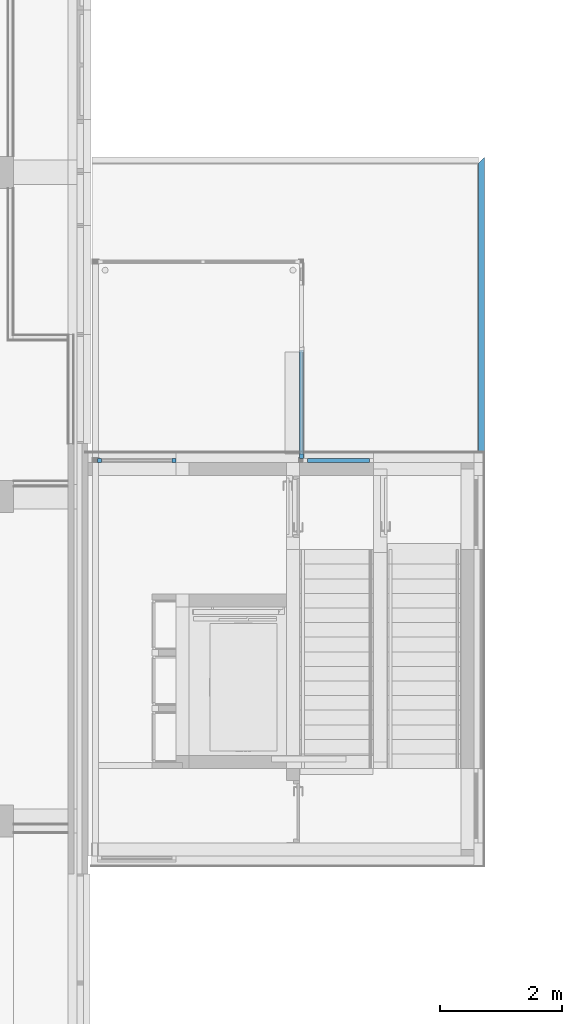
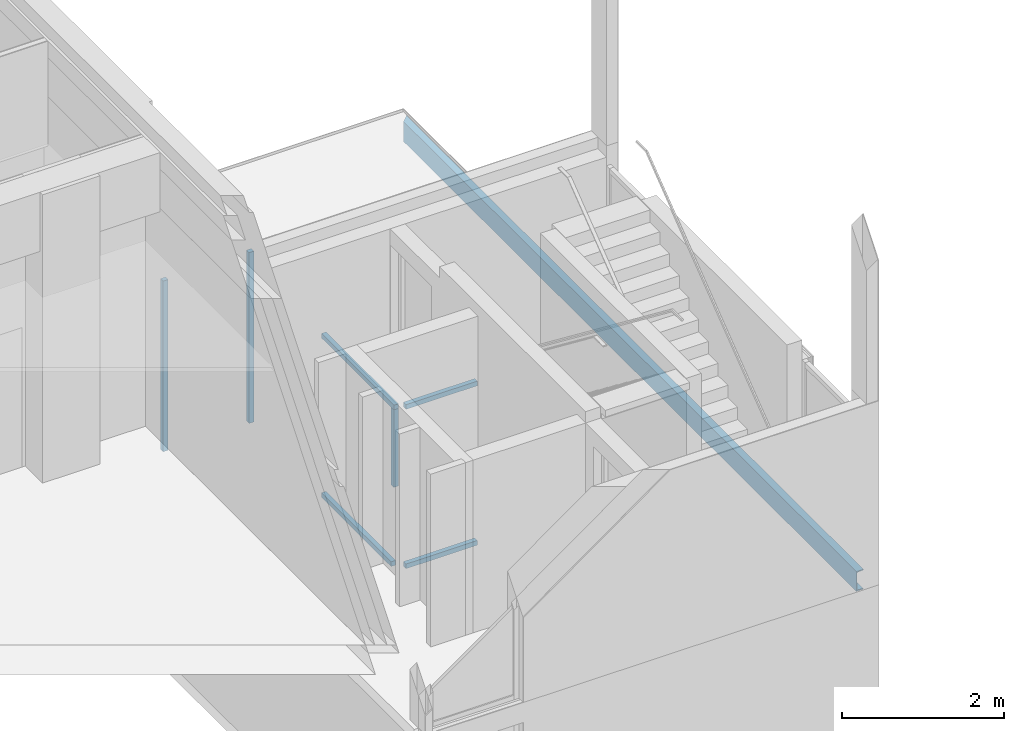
# One storey, part 26 of 117: 7 members, 1 beam, 3 elements without a shape of their own.
"""IFC2X3 building model written with IfcOpenShell, lengths in millimetres."""

from ifc_helpers import new_model, entity, si_unit, converted_unit, derived_unit, money_unit, direction, frame, origin_with_axes, place, context, subcontext, project, spatial, faceted_brep, material, type_object, element, aggregate, save


model = new_model("IFC2X3")

# Units and contexts
model_context = context("Model", 3, precision=0.01, world=origin_with_axes(), true_north=direction((0.0, 1.0)))
body_context = subcontext(model_context, "Body", "Model", "MODEL_VIEW")
ifc_project = project(units=[si_unit("LENGTHUNIT", "METRE", prefix="MILLI"), si_unit("AREAUNIT", "SQUARE_METRE"), si_unit("VOLUMEUNIT", "CUBIC_METRE"), converted_unit("PLANEANGLEUNIT", "DEGREE", entity("IfcPlaneAngleMeasure", 0.0174532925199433), si_unit("PLANEANGLEUNIT", "RADIAN"), dimensions=[0, 0, 0, 0, 0, 0, 0]), money_unit("EUR"), converted_unit("TIMEUNIT", "Year", entity("IfcTimeMeasure", 31557600.0), si_unit("TIMEUNIT", "SECOND"), dimensions=[0, 0, 1, 0, 0, 0, 0]), si_unit("MASSUNIT", "GRAM", prefix="KILO"), si_unit("THERMODYNAMICTEMPERATUREUNIT", "DEGREE_CELSIUS"), si_unit("LUMINOUSINTENSITYUNIT", "LUMEN"), si_unit("ENERGYUNIT", "JOULE", prefix="MEGA"), derived_unit("THERMALCONDUCTANCEUNIT", [(si_unit("POWERUNIT", "WATT"), 1), (si_unit("LENGTHUNIT", "METRE"), -1), (si_unit("THERMODYNAMICTEMPERATUREUNIT", "KELVIN"), -1)]), derived_unit("SPECIFICHEATCAPACITYUNIT", [(si_unit("ENERGYUNIT", "JOULE"), 1), (si_unit("MASSUNIT", "GRAM", prefix="KILO"), -1), (si_unit("THERMODYNAMICTEMPERATUREUNIT", "KELVIN"), -1)]), derived_unit("MASSDENSITYUNIT", [(si_unit("MASSUNIT", "GRAM", prefix="KILO"), 1), (si_unit("VOLUMEUNIT", "CUBIC_METRE"), -1)])], contexts=[model_context])

# Site, building, storey
site_placement = place(None, origin_with_axes())
site = spatial("IfcSite", under=ifc_project, at=site_placement, Name="Site", CompositionType="ELEMENT")
building_placement = place(site_placement, origin_with_axes())
building = spatial("IfcBuilding", under=site, at=building_placement, Name="Naam gebouw", CompositionType="ELEMENT")
storey_placement = place(building_placement, frame((0.0, 0.0, 4150.0), z_axis=(0.0, 0.0, 1.0), x_axis=(1.0, 0.0, 0.0)))
storey = spatial("IfcBuildingStorey", under=building, at=storey_placement, Name="1e verdieping N", CompositionType="ELEMENT", Elevation=4150.0)

# Beam
ifc_material_1 = material(Name="staal")
beam_type = type_object("IfcBeamType", Name="NLRS_28_SF_staal - balk - UNP:UNP300", PredefinedType="BEAM")
beam_placement = place(storey_placement, frame((36705.66666669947, 44195.91242627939, -1150.000000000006), z_axis=(0.0, 0.0, 1.0), x_axis=(-1.0, 0.0, 0.0)))
element("IfcBeam", 1, at=beam_placement, inside=storey, type_object=beam_type, material=ifc_material_1, Name="NLRS_28_SF_staal - balk - UNP:UNP300", ObjectType="BEAM", context=body_context, shape_type="Brep", body=[
    faceted_brep([(54.66666666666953, 11270.00000001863, -149.9999999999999), (54.66666666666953, 11270.00000001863, 149.9999999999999), (54.66666666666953, 99.99999998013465, 149.9999999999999), (54.66666666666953, 99.99999998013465, -149.9999999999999), (42.52307312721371, 11270.00000001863, -124.8), (44.66666666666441, 11270.00000001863, -116.8), (44.66666666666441, 11270.00000001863, 116.8), (42.52307312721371, 11270.00000001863, 124.7999999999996), (36.66666666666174, 11270.00000001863, 130.6564064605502), (28.66666666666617, 11270.00000001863, 132.7999999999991), (-37.33333333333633, 11270.00000001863, 136.1000000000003), (-42.99018758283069, 11270.00000001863, 138.4431457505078), (-45.33333333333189, 11270.00000001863, 144.0999999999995), (-45.33333333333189, 11270.00000001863, 149.9999999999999), (-45.33333333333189, 11270.00000001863, -149.9999999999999), (-45.33333333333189, 11270.00000001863, -144.0999999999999), (-42.99018758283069, 11270.00000001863, -138.4431457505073), (-37.33333333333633, 11270.00000001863, -136.0999999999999), (28.66666666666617, 11270.00000001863, -132.8), (36.66666666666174, 11270.00000001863, -130.6564064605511), (-45.33333333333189, 0.0, 149.9999999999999), (-45.33333333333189, 0.0, 144.0999999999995), (-42.99018758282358, 2.343145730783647, 138.4431457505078), (-37.33333333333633, 7.999999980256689, 136.1000000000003), (28.66666666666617, 73.99999998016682, 132.7999999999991), (36.66666666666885, 81.99999998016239, 130.6564064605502), (42.52307312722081, 87.85640644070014, 124.7999999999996), (44.66666666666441, 89.99999998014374, 116.8), (44.66666666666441, 89.99999998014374, -116.8), (42.52307312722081, 87.85640644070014, -124.8), (36.66666666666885, 81.99999998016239, -130.6564064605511), (28.66666666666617, 73.99999998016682, -132.8), (-37.33333333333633, 7.999999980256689, -136.0999999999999), (-42.99018758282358, 2.343145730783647, -138.4431457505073), (-45.33333331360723, 0.0, -144.0999999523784), (-45.33333333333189, 0.0, -149.9999999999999)], [[[0, 1, 2, 3]], [[4, 5, 6, 7, 8, 9, 10, 11, 12, 13, 1, 0, 14, 15, 16, 17, 18, 19]], [[2, 1, 13, 20]], [[3, 2, 20, 21, 22, 23, 24, 25, 26, 27, 28, 29, 30, 31, 32, 33, 34, 35]], [[0, 3, 35, 14]], [[5, 4, 29, 28]], [[6, 5, 28, 27]], [[7, 6, 27, 26]], [[7, 26, 25, 8]], [[9, 8, 25, 24]], [[10, 9, 24, 23]], [[11, 10, 23, 22]], [[11, 22, 21, 12]], [[13, 12, 21, 20]], [[15, 14, 35, 34]], [[33, 16, 15, 34]], [[17, 16, 33, 32]], [[18, 17, 32, 31]], [[19, 18, 31, 30]], [[29, 4, 19, 30]]]),
])

# Curtain wall, members
curtain_wall_type = type_object("IfcCurtainWallType", Name="Curtain Wall:21_CW_alu kozijn 070x065", PredefinedType="NOTDEFINED")
curtain_wall_1_placement = place(storey_placement, frame((0.0, 0.0, -4150.0), z_axis=(0.0, 0.0, 1.0), x_axis=(1.0, 0.0, 0.0)))
curtain_wall_1 = element("IfcCurtainWall", 2, at=curtain_wall_1_placement, inside=storey, type_object=curtain_wall_type, Name="Curtain Wall:21_CW_alu kozijn 070x065", ObjectType="Curtain Wall:21_CW_alu kozijn 070x065")
ifc_material_2 = material(Name="RAL 7024 - Grafietgrijs")
member_type_1 = type_object("IfcMemberType", Name="Rectangular Mullion:31_alu_070x065 RAL 7024", PredefinedType="MULLION")
member_1_placement = place(curtain_wall_1_placement, frame((31685.00000002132, 39212.4124263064, 5920.000000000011), z_axis=(0.0, 0.0, 1.0), x_axis=(1.0, 0.0, 0.0)))
member_1 = element("IfcMember", 3, at=member_1_placement, type_object=member_type_1, material=ifc_material_2, Name="Rectangular Mullion:31_alu_070x065 RAL 7024", ObjectType="MULLION", context=body_context, shape_type="Brep", body=[
    faceted_brep([(0.0, 32.5, -2570.0), (-70.0, 32.50000000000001, -2570.0), (-70.0, 32.50000000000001, -6.354916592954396e-10), (0.0, 32.5, -6.354916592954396e-10), (0.0, -32.50000000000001, -2570.0), (-70.0, -32.5, -2570.0), (-70.0, -32.5, -6.354916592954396e-10), (0.0, -32.50000000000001, -6.354916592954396e-10)], [[[0, 1, 2, 3]], [[0, 4, 5, 1]], [[1, 5, 6, 2]], [[3, 2, 6, 7]], [[4, 0, 3, 7]], [[5, 4, 7, 6]]]),
])
member_type_2 = type_object("IfcMemberType", Name="Rectangular Mullion:31_alu_070x065 RAL 7024", PredefinedType="MULLION")
member_2_placement = place(curtain_wall_1_placement, frame((30391.00000005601, 39212.4124263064, 3349.999999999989), z_axis=(0.0, 0.0, 1.0), x_axis=(-1.0, 0.0, 0.0)))
member_2 = element("IfcMember", 4, at=member_2_placement, type_object=member_type_2, material=ifc_material_2, Name="Rectangular Mullion:31_alu_070x065 RAL 7024", ObjectType="MULLION", context=body_context, shape_type="Brep", body=[
    faceted_brep([(0.0, -32.5, 2570.0), (-70.0, -32.50000000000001, 2570.0), (-70.0, -32.50000000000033, 6.354916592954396e-10), (0.0, -32.50000000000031, 6.354916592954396e-10), (0.0, 32.50000000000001, 2570.0), (-70.0, 32.5, 2570.0), (-70.0, 32.49999999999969, 6.354916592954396e-10), (0.0, 32.4999999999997, 6.354916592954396e-10)], [[[0, 1, 2, 3]], [[0, 4, 5, 1]], [[1, 5, 6, 2]], [[3, 2, 6, 7]], [[4, 0, 3, 7]], [[5, 4, 7, 6]]]),
])
aggregate(curtain_wall_1, [member_2, member_1])

curtain_wall_2_placement = place(storey_placement, frame((0.0, 0.0, -4150.0), z_axis=(0.0, 0.0, 1.0), x_axis=(1.0, 0.0, 0.0)))
curtain_wall_2 = element("IfcCurtainWall", 5, at=curtain_wall_2_placement, inside=storey, type_object=curtain_wall_type, Name="Curtain Wall:21_CW_alu kozijn 070x065", ObjectType="Curtain Wall:21_CW_alu kozijn 070x065")
member_type_3 = type_object("IfcMemberType", Name="Rectangular Mullion:31_alu_070x065 RAL 7024", PredefinedType="MULLION")
member_3_placement = place(curtain_wall_2_placement, frame((33745.50000004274, 39244.91242633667, 2779.999999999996), z_axis=(0.0, 0.0, 1.0), x_axis=(0.0, -1.0, 0.0)))
member_3 = element("IfcMember", 6, at=member_3_placement, type_object=member_type_3, material=ifc_material_2, Name="Rectangular Mullion:31_alu_070x065 RAL 7024", ObjectType="MULLION", context=body_context, shape_type="Brep", body=[
    faceted_brep([(0.0, 32.5, -1167.2), (-70.0, 32.50000000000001, -1167.2), (-70.0, 32.50000000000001, 0.0), (0.0, 32.5, 0.0), (0.0, -32.50000000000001, -1167.2), (-70.0, -32.5, -1167.2), (-70.0, -32.5, 0.0), (0.0, -32.50000000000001, 0.0)], [[[0, 1, 2, 3]], [[0, 4, 5, 1]], [[1, 5, 6, 2]], [[3, 2, 6, 7]], [[4, 0, 3, 7]], [[5, 4, 7, 6]]]),
])
member_type_4 = type_object("IfcMemberType", Name="Rectangular Mullion:31_alu_070x065 RAL 7024", PredefinedType="MULLION")
member_4_placement = place(curtain_wall_2_placement, frame((33745.50000004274, 39314.91242628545, 379.9999999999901), z_axis=(0.0, 0.0, 1.0), x_axis=(1.0, 0.0, 0.0)))
member_4 = element("IfcMember", 7, at=member_4_placement, type_object=member_type_4, material=ifc_material_2, Name="Rectangular Mullion:31_alu_070x065 RAL 7024", ObjectType="MULLION", context=body_context, shape_type="Brep", body=[
    faceted_brep([(32.49999999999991, 1714.700000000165, 0.0), (32.49999999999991, 1714.700000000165, 70.0), (32.50000000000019, 0.0, 70.0), (32.50000000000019, 0.0, 0.0), (-32.50000000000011, 1714.700000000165, 0.0), (-32.50000000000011, 1714.700000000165, 70.0), (-32.49999999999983, 0.0, 70.0), (-32.49999999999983, 0.0, 0.0)], [[[0, 1, 2, 3]], [[0, 4, 5, 1]], [[1, 5, 6, 2]], [[3, 2, 6, 7]], [[4, 0, 3, 7]], [[5, 4, 7, 6]]]),
])
member_type_5 = type_object("IfcMemberType", Name="Rectangular Mullion:31_alu_070x065 RAL 7024", PredefinedType="MULLION")
member_5_placement = place(curtain_wall_2_placement, frame((33745.50000004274, 41029.61242629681, 2849.999999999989), z_axis=(0.0, 0.0, 1.0), x_axis=(1.0, 0.0, 0.0)))
member_5 = element("IfcMember", 8, at=member_5_placement, type_object=member_type_5, material=ifc_material_2, Name="Rectangular Mullion:31_alu_070x065 RAL 7024", ObjectType="MULLION", context=body_context, shape_type="Brep", body=[
    faceted_brep([(32.50000000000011, -1784.700000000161, 0.0), (32.50000000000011, -1784.700000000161, -70.0), (32.49999999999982, 0.0, -70.0), (32.49999999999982, 0.0, 0.0), (-32.49999999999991, -1784.700000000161, 0.0), (-32.49999999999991, -1784.700000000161, -70.0), (-32.5000000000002, 0.0, -70.0), (-32.5000000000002, 0.0, 0.0)], [[[0, 1, 2, 3]], [[0, 4, 5, 1]], [[1, 5, 6, 2]], [[3, 2, 6, 7]], [[4, 0, 3, 7]], [[5, 4, 7, 6]]]),
])
aggregate(curtain_wall_2, [member_3, member_4, member_5])

curtain_wall_3_placement = place(storey_placement, frame((0.0, 0.0, -4150.0), z_axis=(0.0, 0.0, 1.0), x_axis=(1.0, 0.0, 0.0)))
curtain_wall_3 = element("IfcCurtainWall", 9, at=curtain_wall_3_placement, inside=storey, type_object=curtain_wall_type, Name="Curtain Wall:21_CW_alu kozijn 070x065", ObjectType="Curtain Wall:21_CW_alu kozijn 070x065")
member_type_6 = type_object("IfcMemberType", Name="Rectangular Mullion:31_alu_070x065 RAL 7024", PredefinedType="MULLION")
member_6_placement = place(curtain_wall_3_placement, frame((33848.00000005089, 39212.4124263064, 379.9999999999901), z_axis=(0.0, 0.0, 1.0), x_axis=(0.0, -1.0, 0.0)))
member_6 = element("IfcMember", 10, at=member_6_placement, type_object=member_type_6, material=ifc_material_2, Name="Rectangular Mullion:31_alu_070x065 RAL 7024", ObjectType="MULLION", context=body_context, shape_type="Brep", body=[
    faceted_brep([(32.49999999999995, 1015.0, 0.0), (32.49999999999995, 1015.0, 70.0), (32.50000000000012, 0.0, 70.0), (32.50000000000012, 0.0, 0.0), (-32.50000000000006, 1015.0, 0.0), (-32.50000000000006, 1015.0, 70.0), (-32.4999999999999, 0.0, 70.0), (-32.4999999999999, 0.0, 0.0)], [[[0, 1, 2, 3]], [[0, 4, 5, 1]], [[1, 5, 6, 2]], [[3, 2, 6, 7]], [[4, 0, 3, 7]], [[5, 4, 7, 6]]]),
])
member_type_7 = type_object("IfcMemberType", Name="Rectangular Mullion:31_alu_070x065 RAL 7024", PredefinedType="MULLION")
member_7_placement = place(curtain_wall_3_placement, frame((34863.00000006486, 39212.4124263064, 2849.999999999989), z_axis=(0.0, 0.0, 1.0), x_axis=(0.0, -1.0, 0.0)))
member_7 = element("IfcMember", 11, at=member_7_placement, type_object=member_type_7, material=ifc_material_2, Name="Rectangular Mullion:31_alu_070x065 RAL 7024", ObjectType="MULLION", context=body_context, shape_type="Brep", body=[
    faceted_brep([(32.50000000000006, -1015.0, 0.0), (32.50000000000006, -1015.0, -70.0), (32.4999999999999, 0.0, -70.0), (32.4999999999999, 0.0, 0.0), (-32.49999999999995, -1015.0, 0.0), (-32.49999999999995, -1015.0, -70.0), (-32.50000000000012, 0.0, -70.0), (-32.50000000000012, 0.0, 0.0)], [[[0, 1, 2, 3]], [[0, 4, 5, 1]], [[1, 5, 6, 2]], [[3, 2, 6, 7]], [[4, 0, 3, 7]], [[5, 4, 7, 6]]]),
])
aggregate(curtain_wall_3, [member_6, member_7])

save(model, "model.ifc")
